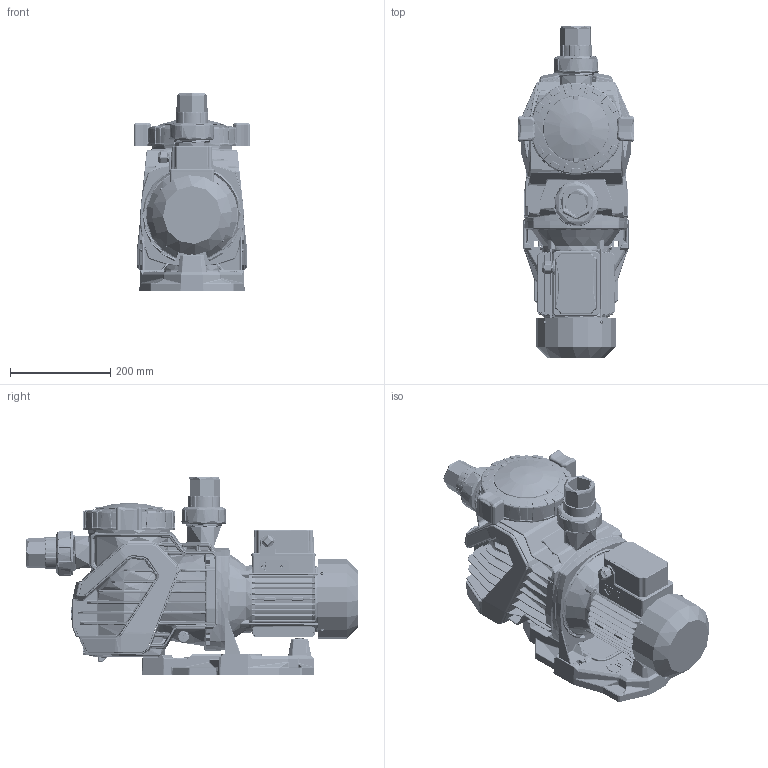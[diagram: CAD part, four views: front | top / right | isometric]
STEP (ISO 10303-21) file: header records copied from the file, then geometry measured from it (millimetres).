
FILE_DESCRIPTION(/* description */ ('Unknown'),/* implementation_level */ '2;1');
FILE_NAME(/* name */ 'STELLAR 3D-Solid',/* time_stamp */ '2026-10-13T08:55:14+02:00',/* author */ ('Unknown'),/* organization */ ('Unknown'),/* preprocessor_version */ 'ST-DEVELOPER v20',/* originating_system */ 'Solid Edge',/* authorisation */ 'Unknown');
FILE_SCHEMA (('AUTOMOTIVE_DESIGN {1 0 10303 214 3 1 1}'));
Products named in the file (1): STELLAR 3D Solid
Bounding box: 233.81 x 663.3 x 396.02 mm (x, y, z)
Volume: 19203296 mm3; surface area: 2251016.2 mm2
Topology: 25 solids, 26 shells, 16969 faces, 41998 edges, 24118 vertices
Faces by surface type: cylinder 5459, bspline 4265, plane 3660, torus 1878, sphere 861, cone 846
Full cylindrical faces by diameter (mm): 2.64 x20, 3 x8, 4 x4, 5 x16, 6.647 x4, 6.999 x4, 7 x4, 7.999 x4, 8 x4, 8.749 x4, 11.444 x1, 12.999 x4, 13 x4, 13.157 x2, 18.998 x2, 19 x2, 19.848 x1, 19.998 x1, 20 x1, 23.698 x1, 46.635 x2, 46.639 x2, 50.446 x2, 50.451 x2, 63.694 x2, 63.7 x2, 67.993 x2, 71.293 x2, 88.123 x2, 90.126 x2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
Entity records: 725384 total; most frequent: CARTESIAN_POINT 311320, ORIENTED_EDGE 80560, DIRECTION 55750, EDGE_CURVE 40280, VERTEX_POINT 23897, AXIS2_PLACEMENT_3D 21879, B_SPLINE_CURVE_WITH_KNOTS 18891, FACE_BOUND 17627
